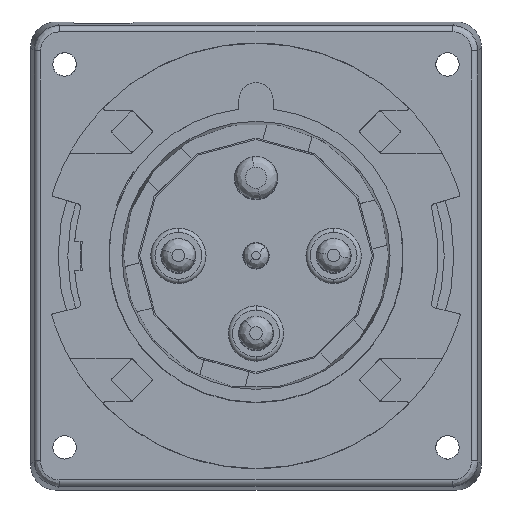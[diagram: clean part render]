
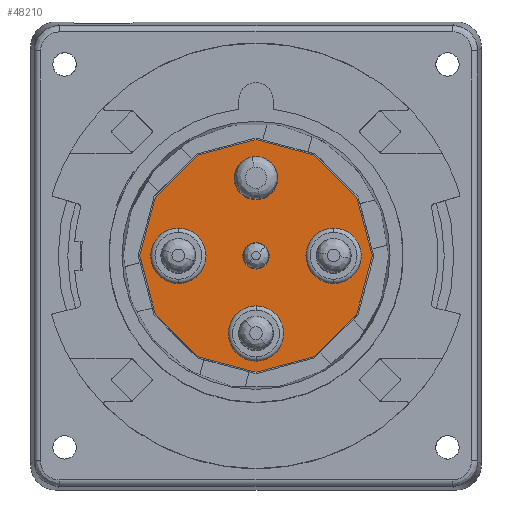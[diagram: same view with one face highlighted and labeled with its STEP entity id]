
A CAD part, top view. The second image highlights one B-rep face of the part: STEP entity #48210.
In plain terms, the highlighted planar face has unit normal (0, 0, 1).
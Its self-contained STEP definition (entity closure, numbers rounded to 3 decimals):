
#13507=DIRECTION('',(-0.966,0.259,0.));
#13508=VECTOR('',#13507,14.148);
#13509=CARTESIAN_POINT('',(0.,-27.331,17.7));
#13510=LINE('3998',#13509,#13508);
#13511=DIRECTION('',(-0.707,0.707,0.));
#13512=VECTOR('',#13511,14.148);
#13513=CARTESIAN_POINT('',(-13.666,-23.67,17.7));
#13514=LINE('3999',#13513,#13512);
#13515=DIRECTION('',(-0.259,0.966,0.));
#13516=VECTOR('',#13515,14.148);
#13517=CARTESIAN_POINT('',(-23.67,-13.666,17.7));
#13518=LINE('4000',#13517,#13516);
#13519=DIRECTION('',(0.259,0.966,0.));
#13520=VECTOR('',#13519,14.148);
#13521=CARTESIAN_POINT('',(-27.331,0.,17.7));
#13522=LINE('4001',#13521,#13520);
#13523=DIRECTION('',(0.707,0.707,0.));
#13524=VECTOR('',#13523,14.148);
#13525=CARTESIAN_POINT('',(-23.67,13.666,17.7));
#13526=LINE('4002',#13525,#13524);
#13527=DIRECTION('',(0.966,0.259,0.));
#13528=VECTOR('',#13527,14.148);
#13529=CARTESIAN_POINT('',(-13.666,23.67,17.7));
#13530=LINE('4003',#13529,#13528);
#13531=DIRECTION('',(0.966,-0.259,0.));
#13532=VECTOR('',#13531,14.148);
#13533=CARTESIAN_POINT('',(0.,27.331,17.7));
#13534=LINE('4004',#13533,#13532);
#13535=DIRECTION('',(0.707,-0.707,0.));
#13536=VECTOR('',#13535,14.148);
#13537=CARTESIAN_POINT('',(13.666,23.67,17.7));
#13538=LINE('4005',#13537,#13536);
#13539=DIRECTION('',(0.259,-0.966,0.));
#13540=VECTOR('',#13539,14.148);
#13541=CARTESIAN_POINT('',(23.67,13.666,17.7));
#13542=LINE('4006',#13541,#13540);
#13543=DIRECTION('',(-0.259,-0.966,0.));
#13544=VECTOR('',#13543,14.148);
#13545=CARTESIAN_POINT('',(27.331,0.,17.7));
#13546=LINE('4007',#13545,#13544);
#13547=DIRECTION('',(-0.707,-0.707,0.));
#13548=VECTOR('',#13547,14.148);
#13549=CARTESIAN_POINT('',(23.67,-13.666,17.7));
#13550=LINE('4008',#13549,#13548);
#13551=DIRECTION('',(-0.966,-0.259,0.));
#13552=VECTOR('',#13551,14.148);
#13553=CARTESIAN_POINT('',(13.666,-23.67,17.7));
#13554=LINE('4009',#13553,#13552);
#13555=CARTESIAN_POINT('',(-18.25,0.,17.7));
#13556=DIRECTION('',(0.,0.,1.));
#13557=DIRECTION('',(0.,1.,0.));
#13558=AXIS2_PLACEMENT_3D('',#13555,#13556,#13557);
#13560=CARTESIAN_POINT('',(-18.25,0.,17.7));
#13561=DIRECTION('',(0.,0.,1.));
#13562=DIRECTION('',(0.,-1.,0.));
#13563=AXIS2_PLACEMENT_3D('',#13560,#13561,#13562);
#13565=CARTESIAN_POINT('',(0.,-18.25,17.7));
#13566=DIRECTION('',(0.,0.,1.));
#13567=DIRECTION('',(0.,1.,0.));
#13568=AXIS2_PLACEMENT_3D('',#13565,#13566,#13567);
#13570=CARTESIAN_POINT('',(0.,-18.25,17.7));
#13571=DIRECTION('',(0.,0.,1.));
#13572=DIRECTION('',(0.,-1.,0.));
#13573=AXIS2_PLACEMENT_3D('',#13570,#13571,#13572);
#13575=CARTESIAN_POINT('',(18.25,0.,17.7));
#13576=DIRECTION('',(0.,0.,1.));
#13577=DIRECTION('',(0.,1.,0.));
#13578=AXIS2_PLACEMENT_3D('',#13575,#13576,#13577);
#13580=CARTESIAN_POINT('',(18.25,0.,17.7));
#13581=DIRECTION('',(0.,0.,1.));
#13582=DIRECTION('',(0.,-1.,0.));
#13583=AXIS2_PLACEMENT_3D('',#13580,#13581,#13582);
#13585=CARTESIAN_POINT('',(0.,0.,17.7));
#13586=DIRECTION('',(0.,0.,1.));
#13587=DIRECTION('',(0.,1.,0.));
#13588=AXIS2_PLACEMENT_3D('',#13585,#13586,#13587);
#13590=CARTESIAN_POINT('',(0.,0.,17.7));
#13591=DIRECTION('',(0.,0.,1.));
#13592=DIRECTION('',(0.,-1.,0.));
#13593=AXIS2_PLACEMENT_3D('',#13590,#13591,#13592);
#13595=CARTESIAN_POINT('',(0.,18.25,17.7));
#13596=DIRECTION('',(0.,0.,1.));
#13597=DIRECTION('',(0.,1.,0.));
#13598=AXIS2_PLACEMENT_3D('',#13595,#13596,#13597);
#13600=CARTESIAN_POINT('',(0.,18.25,17.7));
#13601=DIRECTION('',(0.,0.,1.));
#13602=DIRECTION('',(0.,-1.,0.));
#13603=AXIS2_PLACEMENT_3D('',#13600,#13601,#13602);
#20294=CARTESIAN_POINT('',(0.,-27.331,17.7));
#20295=CARTESIAN_POINT('',(-13.666,-23.67,17.7));
#20296=VERTEX_POINT('',#20294);
#20297=VERTEX_POINT('',#20295);
#20298=CARTESIAN_POINT('',(-23.67,-13.666,17.7));
#20299=VERTEX_POINT('',#20298);
#20300=CARTESIAN_POINT('',(-27.331,0.,17.7));
#20301=VERTEX_POINT('',#20300);
#20302=CARTESIAN_POINT('',(-23.67,13.666,17.7));
#20303=VERTEX_POINT('',#20302);
#20304=CARTESIAN_POINT('',(-13.666,23.67,17.7));
#20305=VERTEX_POINT('',#20304);
#20306=CARTESIAN_POINT('',(0.,27.331,17.7));
#20307=VERTEX_POINT('',#20306);
#20308=CARTESIAN_POINT('',(13.666,23.67,17.7));
#20309=VERTEX_POINT('',#20308);
#20310=CARTESIAN_POINT('',(23.67,13.666,17.7));
#20311=VERTEX_POINT('',#20310);
#20312=CARTESIAN_POINT('',(27.331,0.,17.7));
#20313=VERTEX_POINT('',#20312);
#20314=CARTESIAN_POINT('',(23.67,-13.666,17.7));
#20315=VERTEX_POINT('',#20314);
#20316=CARTESIAN_POINT('',(13.666,-23.67,17.7));
#20317=VERTEX_POINT('',#20316);
#20318=CARTESIAN_POINT('',(-18.25,6.5,17.7));
#20319=CARTESIAN_POINT('',(-18.25,-6.5,17.7));
#20320=VERTEX_POINT('',#20318);
#20321=VERTEX_POINT('',#20319);
#20322=CARTESIAN_POINT('',(0.,-11.75,17.7));
#20323=CARTESIAN_POINT('',(0.,-24.75,17.7));
#20324=VERTEX_POINT('',#20322);
#20325=VERTEX_POINT('',#20323);
#20326=CARTESIAN_POINT('',(18.25,6.5,17.7));
#20327=CARTESIAN_POINT('',(18.25,-6.5,17.7));
#20328=VERTEX_POINT('',#20326);
#20329=VERTEX_POINT('',#20327);
#20330=CARTESIAN_POINT('',(0.,3.1,17.7));
#20331=CARTESIAN_POINT('',(0.,-3.1,17.7));
#20332=VERTEX_POINT('',#20330);
#20333=VERTEX_POINT('',#20331);
#20334=CARTESIAN_POINT('',(0.,23.35,17.7));
#20335=CARTESIAN_POINT('',(0.,13.15,17.7));
#20336=VERTEX_POINT('',#20334);
#20337=VERTEX_POINT('',#20335);
#48158=CARTESIAN_POINT('',(0.,0.,17.7));
#48159=DIRECTION('',(0.,0.,-1.));
#48160=DIRECTION('',(0.,-1.,0.));
#48161=AXIS2_PLACEMENT_3D('',#48158,#48159,#48160);
#48162=PLANE('926',#48161);
#48163=ORIENTED_EDGE('3998',*,*,#45982,.T.);
#48165=ORIENTED_EDGE('3999',*,*,#48164,.T.);
#48166=ORIENTED_EDGE('4000',*,*,#46611,.T.);
#48167=ORIENTED_EDGE('4001',*,*,#46738,.T.);
#48168=ORIENTED_EDGE('4002',*,*,#46771,.T.);
#48170=ORIENTED_EDGE('4003',*,*,#48169,.T.);
#48171=ORIENTED_EDGE('4004',*,*,#47399,.T.);
#48172=ORIENTED_EDGE('4005',*,*,#47555,.T.);
#48173=ORIENTED_EDGE('4006',*,*,#47584,.T.);
#48175=ORIENTED_EDGE('4007',*,*,#48174,.T.);
#48176=ORIENTED_EDGE('4008',*,*,#48109,.T.);
#48177=ORIENTED_EDGE('4009',*,*,#48140,.T.);
#48178=EDGE_LOOP('926',(#48163,#48165,#48166,#48167,#48168,#48170,#48171,#48172,
#48173,#48175,#48176,#48177));
#48179=FACE_OUTER_BOUND('926',#48178,.F.);
#48181=ORIENTED_EDGE('4010',*,*,#48180,.T.);
#48183=ORIENTED_EDGE('4011',*,*,#48182,.T.);
#48184=EDGE_LOOP('926',(#48181,#48183));
#48185=FACE_BOUND('926',#48184,.F.);
#48187=ORIENTED_EDGE('4012',*,*,#48186,.T.);
#48189=ORIENTED_EDGE('4013',*,*,#48188,.T.);
#48190=EDGE_LOOP('926',(#48187,#48189));
#48191=FACE_BOUND('926',#48190,.F.);
#48193=ORIENTED_EDGE('4014',*,*,#48192,.T.);
#48195=ORIENTED_EDGE('4015',*,*,#48194,.T.);
#48196=EDGE_LOOP('926',(#48193,#48195));
#48197=FACE_BOUND('926',#48196,.F.);
#48199=ORIENTED_EDGE('4016',*,*,#48198,.T.);
#48201=ORIENTED_EDGE('4017',*,*,#48200,.T.);
#48202=EDGE_LOOP('926',(#48199,#48201));
#48203=FACE_BOUND('926',#48202,.F.);
#48205=ORIENTED_EDGE('4018',*,*,#48204,.T.);
#48207=ORIENTED_EDGE('4019',*,*,#48206,.T.);
#48208=EDGE_LOOP('926',(#48205,#48207));
#48209=FACE_BOUND('926',#48208,.F.);
#13559=CIRCLE('4010',#13558,6.5);
#13564=CIRCLE('4011',#13563,6.5);
#13569=CIRCLE('4012',#13568,6.5);
#13574=CIRCLE('4013',#13573,6.5);
#13579=CIRCLE('4014',#13578,6.5);
#13584=CIRCLE('4015',#13583,6.5);
#13589=CIRCLE('4016',#13588,3.1);
#13594=CIRCLE('4017',#13593,3.1);
#13599=CIRCLE('4018',#13598,5.1);
#13604=CIRCLE('4019',#13603,5.1);
#45982=EDGE_CURVE('3998',#20296,#20297,#13510,.T.);
#46611=EDGE_CURVE('4000',#20299,#20301,#13518,.T.);
#46738=EDGE_CURVE('4001',#20301,#20303,#13522,.T.);
#46771=EDGE_CURVE('4002',#20303,#20305,#13526,.T.);
#47399=EDGE_CURVE('4004',#20307,#20309,#13534,.T.);
#47555=EDGE_CURVE('4005',#20309,#20311,#13538,.T.);
#47584=EDGE_CURVE('4006',#20311,#20313,#13542,.T.);
#48109=EDGE_CURVE('4008',#20315,#20317,#13550,.T.);
#48140=EDGE_CURVE('4009',#20317,#20296,#13554,.T.);
#48164=EDGE_CURVE('3999',#20297,#20299,#13514,.T.);
#48169=EDGE_CURVE('4003',#20305,#20307,#13530,.T.);
#48174=EDGE_CURVE('4007',#20313,#20315,#13546,.T.);
#48180=EDGE_CURVE('4010',#20320,#20321,#13559,.T.);
#48182=EDGE_CURVE('4011',#20321,#20320,#13564,.T.);
#48186=EDGE_CURVE('4012',#20324,#20325,#13569,.T.);
#48188=EDGE_CURVE('4013',#20325,#20324,#13574,.T.);
#48192=EDGE_CURVE('4014',#20328,#20329,#13579,.T.);
#48194=EDGE_CURVE('4015',#20329,#20328,#13584,.T.);
#48198=EDGE_CURVE('4016',#20332,#20333,#13589,.T.);
#48200=EDGE_CURVE('4017',#20333,#20332,#13594,.T.);
#48204=EDGE_CURVE('4018',#20336,#20337,#13599,.T.);
#48206=EDGE_CURVE('4019',#20337,#20336,#13604,.T.);
#48210=ADVANCED_FACE('926',(#48179,#48185,#48191,#48197,#48203,#48209),#48162,
.F.);
